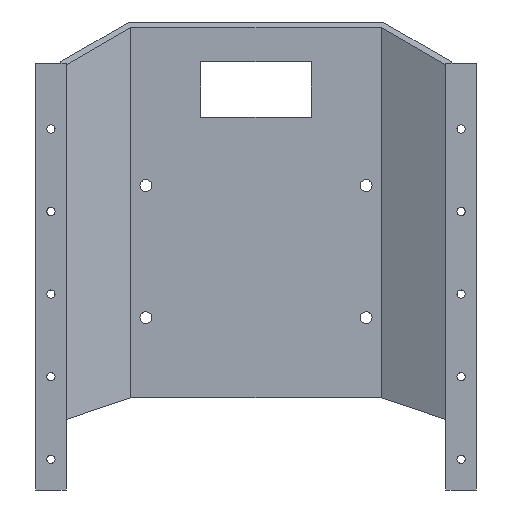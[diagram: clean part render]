
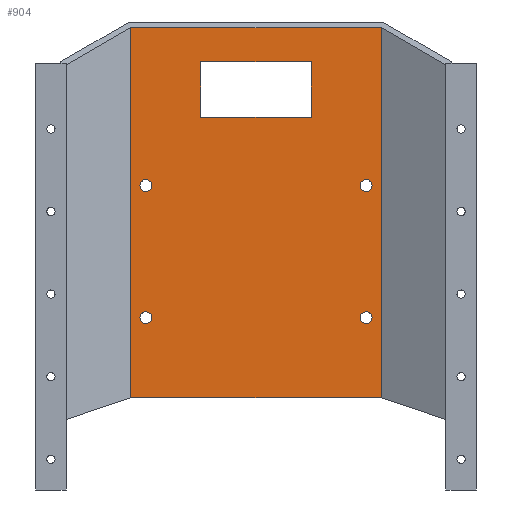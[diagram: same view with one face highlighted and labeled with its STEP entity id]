
A CAD part, front view. The second image highlights one B-rep face of the part: STEP entity #904.
In plain terms, the highlighted planar face has unit normal (0, -1, 0).
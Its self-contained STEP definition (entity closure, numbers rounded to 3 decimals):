
#9 = FACE_BOUND ( 'NONE', #3362, .T. ) ;
#34 = VERTEX_POINT ( 'NONE', #1925 ) ;
#72 = CARTESIAN_POINT ( 'NONE',  ( -40., 28., -107.404 ) ) ;
#99 = ORIENTED_EDGE ( 'NONE', *, *, #438, .F. ) ;
#117 = CARTESIAN_POINT ( 'NONE',  ( 40., 28., -107.404 ) ) ;
#133 = VERTEX_POINT ( 'NONE', #3580 ) ;
#183 = CIRCLE ( 'NONE', #250, 2.15 ) ;
#202 = CARTESIAN_POINT ( 'NONE',  ( -45.464, 28., -2. ) ) ;
#242 = CARTESIAN_POINT ( 'NONE',  ( 40., 28., -59.404 ) ) ;
#244 = AXIS2_PLACEMENT_3D ( 'NONE', #117, #2383, #962 ) ;
#250 = AXIS2_PLACEMENT_3D ( 'NONE', #1322, #986, #1864 ) ;
#298 = ORIENTED_EDGE ( 'NONE', *, *, #3421, .F. ) ;
#378 = VECTOR ( 'NONE', #2843, 1000. ) ;
#394 = DIRECTION ( 'NONE',  ( 0., -1., 0. ) ) ;
#405 = LINE ( 'NONE', #2607, #2516 ) ;
#438 = EDGE_CURVE ( 'NONE', #2826, #3517, #989, .T. ) ;
#443 = ORIENTED_EDGE ( 'NONE', *, *, #1888, .F. ) ;
#500 = ORIENTED_EDGE ( 'NONE', *, *, #702, .T. ) ;
#565 = ORIENTED_EDGE ( 'NONE', *, *, #1602, .F. ) ;
#592 = ORIENTED_EDGE ( 'NONE', *, *, #909, .F. ) ;
#603 = VECTOR ( 'NONE', #845, 1000. ) ;
#613 = EDGE_CURVE ( 'NONE', #3364, #34, #1806, .T. ) ;
#655 = VERTEX_POINT ( 'NONE', #3534 ) ;
#662 = CARTESIAN_POINT ( 'NONE',  ( 45.464, 28., -170. ) ) ;
#702 = EDGE_CURVE ( 'NONE', #3181, #771, #939, .T. ) ;
#716 = LINE ( 'NONE', #2189, #3039 ) ;
#726 = DIRECTION ( 'NONE',  ( 0., 0., -1. ) ) ;
#738 = CARTESIAN_POINT ( 'NONE',  ( -40., 28., -107.404 ) ) ;
#754 = DIRECTION ( 'NONE',  ( 0., 0., 1. ) ) ;
#771 = VERTEX_POINT ( 'NONE', #2990 ) ;
#789 = CARTESIAN_POINT ( 'NONE',  ( -20., 28., -34.52 ) ) ;
#831 = CARTESIAN_POINT ( 'NONE',  ( -20., 28., -170. ) ) ;
#845 = DIRECTION ( 'NONE',  ( -1., 0., 0. ) ) ;
#874 = ORIENTED_EDGE ( 'NONE', *, *, #1241, .F. ) ;
#877 = VECTOR ( 'NONE', #2102, 1000. ) ;
#893 = ORIENTED_EDGE ( 'NONE', *, *, #2116, .F. ) ;
#904 = ADVANCED_FACE ( 'NONE', ( #9, #1155, #1170, #1994, #2296, #3153 ), #2027, .T. ) ;
#909 = EDGE_CURVE ( 'NONE', #133, #1172, #3645, .T. ) ;
#939 = LINE ( 'NONE', #662, #2005 ) ;
#958 = CARTESIAN_POINT ( 'NONE',  ( 20., 28., -170. ) ) ;
#962 = DIRECTION ( 'NONE',  ( 0., 0., -1. ) ) ;
#986 = DIRECTION ( 'NONE',  ( 0., -1., 0. ) ) ;
#989 = CIRCLE ( 'NONE', #1468, 2.15 ) ;
#1050 = DIRECTION ( 'NONE',  ( 0., 0., -1. ) ) ;
#1055 = CARTESIAN_POINT ( 'NONE',  ( -40., 28., -59.404 ) ) ;
#1066 = ORIENTED_EDGE ( 'NONE', *, *, #2791, .F. ) ;
#1088 = CARTESIAN_POINT ( 'NONE',  ( -45.464, 28., -14.52 ) ) ;
#1089 = CARTESIAN_POINT ( 'NONE',  ( 37.85, 28., -59.404 ) ) ;
#1094 = DIRECTION ( 'NONE',  ( 0., -1., 0. ) ) ;
#1109 = LINE ( 'NONE', #2568, #603 ) ;
#1112 = DIRECTION ( 'NONE',  ( 0., -1., 0. ) ) ;
#1119 = EDGE_CURVE ( 'NONE', #1261, #1144, #716, .T. ) ;
#1132 = CARTESIAN_POINT ( 'NONE',  ( -45.464, 28., -170. ) ) ;
#1144 = VERTEX_POINT ( 'NONE', #202 ) ;
#1155 = FACE_BOUND ( 'NONE', #2954, .T. ) ;
#1170 = FACE_BOUND ( 'NONE', #2903, .T. ) ;
#1172 = VERTEX_POINT ( 'NONE', #789 ) ;
#1227 = VERTEX_POINT ( 'NONE', #1089 ) ;
#1241 = EDGE_CURVE ( 'NONE', #3181, #1261, #1109, .T. ) ;
#1255 = AXIS2_PLACEMENT_3D ( 'NONE', #1132, #1112, #2275 ) ;
#1261 = VERTEX_POINT ( 'NONE', #1391 ) ;
#1322 = CARTESIAN_POINT ( 'NONE',  ( 40., 28., -59.404 ) ) ;
#1328 = DIRECTION ( 'NONE',  ( 0., -1., 0. ) ) ;
#1383 = CARTESIAN_POINT ( 'NONE',  ( 40., 28., -107.404 ) ) ;
#1391 = CARTESIAN_POINT ( 'NONE',  ( -45.464, 28., -136.514 ) ) ;
#1444 = CARTESIAN_POINT ( 'NONE',  ( -37.85, 28., -59.404 ) ) ;
#1456 = DIRECTION ( 'NONE',  ( 0., -1., 0. ) ) ;
#1468 = AXIS2_PLACEMENT_3D ( 'NONE', #1055, #2195, #3285 ) ;
#1517 = VERTEX_POINT ( 'NONE', #1552 ) ;
#1552 = CARTESIAN_POINT ( 'NONE',  ( 37.85, 28., -107.404 ) ) ;
#1567 = AXIS2_PLACEMENT_3D ( 'NONE', #242, #1094, #2233 ) ;
#1602 = EDGE_CURVE ( 'NONE', #1172, #3364, #1868, .T. ) ;
#1605 = CARTESIAN_POINT ( 'NONE',  ( -45.464, 28., -34.52 ) ) ;
#1625 = CIRCLE ( 'NONE', #2401, 2.15 ) ;
#1806 = LINE ( 'NONE', #958, #877 ) ;
#1809 = AXIS2_PLACEMENT_3D ( 'NONE', #2306, #394, #726 ) ;
#1827 = ORIENTED_EDGE ( 'NONE', *, *, #1119, .F. ) ;
#1864 = DIRECTION ( 'NONE',  ( 0., 0., -1. ) ) ;
#1868 = LINE ( 'NONE', #1605, #2760 ) ;
#1888 = EDGE_CURVE ( 'NONE', #2905, #2647, #2739, .T. ) ;
#1925 = CARTESIAN_POINT ( 'NONE',  ( 20., 28., -14.52 ) ) ;
#1968 = EDGE_CURVE ( 'NONE', #1227, #655, #183, .T. ) ;
#1994 = FACE_BOUND ( 'NONE', #2799, .T. ) ;
#2005 = VECTOR ( 'NONE', #2937, 1000. ) ;
#2006 = LINE ( 'NONE', #1088, #378 ) ;
#2027 = PLANE ( 'NONE',  #1255 ) ;
#2068 = CARTESIAN_POINT ( 'NONE',  ( -42.15, 28., -107.404 ) ) ;
#2102 = DIRECTION ( 'NONE',  ( 0., 0., 1. ) ) ;
#2116 = EDGE_CURVE ( 'NONE', #1517, #3672, #2621, .T. ) ;
#2189 = CARTESIAN_POINT ( 'NONE',  ( -45.464, 28., -170. ) ) ;
#2195 = DIRECTION ( 'NONE',  ( 0., -1., 0. ) ) ;
#2223 = DIRECTION ( 'NONE',  ( 0., 0., -1. ) ) ;
#2233 = DIRECTION ( 'NONE',  ( 0., 0., -1. ) ) ;
#2234 = DIRECTION ( 'NONE',  ( 0., 0., -1. ) ) ;
#2258 = ORIENTED_EDGE ( 'NONE', *, *, #613, .F. ) ;
#2275 = DIRECTION ( 'NONE',  ( 0., 0., -1. ) ) ;
#2296 = FACE_BOUND ( 'NONE', #3435, .T. ) ;
#2303 = ORIENTED_EDGE ( 'NONE', *, *, #3649, .F. ) ;
#2306 = CARTESIAN_POINT ( 'NONE',  ( -40., 28., -59.404 ) ) ;
#2346 = DIRECTION ( 'NONE',  ( 1., 0., 0. ) ) ;
#2365 = ORIENTED_EDGE ( 'NONE', *, *, #1968, .F. ) ;
#2380 = AXIS2_PLACEMENT_3D ( 'NONE', #72, #1456, #2943 ) ;
#2383 = DIRECTION ( 'NONE',  ( 0., -1., 0. ) ) ;
#2401 = AXIS2_PLACEMENT_3D ( 'NONE', #738, #2697, #1050 ) ;
#2413 = ORIENTED_EDGE ( 'NONE', *, *, #3555, .F. ) ;
#2511 = EDGE_CURVE ( 'NONE', #3672, #1517, #3398, .T. ) ;
#2516 = VECTOR ( 'NONE', #2346, 1000. ) ;
#2529 = CARTESIAN_POINT ( 'NONE',  ( 45.464, 28., -136.514 ) ) ;
#2568 = CARTESIAN_POINT ( 'NONE',  ( -45.464, 28., -136.514 ) ) ;
#2607 = CARTESIAN_POINT ( 'NONE',  ( -45.464, 28., -2. ) ) ;
#2621 = CIRCLE ( 'NONE', #244, 2.15 ) ;
#2647 = VERTEX_POINT ( 'NONE', #2068 ) ;
#2697 = DIRECTION ( 'NONE',  ( 0., -1., 0. ) ) ;
#2718 = CARTESIAN_POINT ( 'NONE',  ( -37.85, 28., -107.404 ) ) ;
#2739 = CIRCLE ( 'NONE', #2380, 2.15 ) ;
#2760 = VECTOR ( 'NONE', #2961, 1000. ) ;
#2763 = CIRCLE ( 'NONE', #1809, 2.15 ) ;
#2791 = EDGE_CURVE ( 'NONE', #1144, #771, #405, .T. ) ;
#2799 = EDGE_LOOP ( 'NONE', ( #893, #3337 ) ) ;
#2826 = VERTEX_POINT ( 'NONE', #2952 ) ;
#2843 = DIRECTION ( 'NONE',  ( -1., 0., 0. ) ) ;
#2903 = EDGE_LOOP ( 'NONE', ( #2365, #2940 ) ) ;
#2905 = VERTEX_POINT ( 'NONE', #2718 ) ;
#2937 = DIRECTION ( 'NONE',  ( 0., 0., 1. ) ) ;
#2940 = ORIENTED_EDGE ( 'NONE', *, *, #3205, .F. ) ;
#2943 = DIRECTION ( 'NONE',  ( 0., 0., -1. ) ) ;
#2952 = CARTESIAN_POINT ( 'NONE',  ( -42.15, 28., -59.404 ) ) ;
#2954 = EDGE_LOOP ( 'NONE', ( #99, #2303 ) ) ;
#2961 = DIRECTION ( 'NONE',  ( 1., 0., 0. ) ) ;
#2990 = CARTESIAN_POINT ( 'NONE',  ( 45.464, 28., -2. ) ) ;
#3039 = VECTOR ( 'NONE', #754, 1000. ) ;
#3086 = VECTOR ( 'NONE', #2234, 1000. ) ;
#3099 = AXIS2_PLACEMENT_3D ( 'NONE', #1383, #1328, #2223 ) ;
#3104 = EDGE_LOOP ( 'NONE', ( #874, #500, #1066, #1827 ) ) ;
#3153 = FACE_OUTER_BOUND ( 'NONE', #3104, .T. ) ;
#3181 = VERTEX_POINT ( 'NONE', #2529 ) ;
#3205 = EDGE_CURVE ( 'NONE', #655, #1227, #3646, .T. ) ;
#3248 = CARTESIAN_POINT ( 'NONE',  ( 42.15, 28., -107.404 ) ) ;
#3285 = DIRECTION ( 'NONE',  ( 0., 0., -1. ) ) ;
#3337 = ORIENTED_EDGE ( 'NONE', *, *, #2511, .F. ) ;
#3362 = EDGE_LOOP ( 'NONE', ( #2258, #565, #592, #2413 ) ) ;
#3364 = VERTEX_POINT ( 'NONE', #3566 ) ;
#3398 = CIRCLE ( 'NONE', #3099, 2.15 ) ;
#3421 = EDGE_CURVE ( 'NONE', #2647, #2905, #1625, .T. ) ;
#3435 = EDGE_LOOP ( 'NONE', ( #298, #443 ) ) ;
#3517 = VERTEX_POINT ( 'NONE', #1444 ) ;
#3534 = CARTESIAN_POINT ( 'NONE',  ( 42.15, 28., -59.404 ) ) ;
#3555 = EDGE_CURVE ( 'NONE', #34, #133, #2006, .T. ) ;
#3566 = CARTESIAN_POINT ( 'NONE',  ( 20., 28., -34.52 ) ) ;
#3580 = CARTESIAN_POINT ( 'NONE',  ( -20., 28., -14.52 ) ) ;
#3645 = LINE ( 'NONE', #831, #3086 ) ;
#3646 = CIRCLE ( 'NONE', #1567, 2.15 ) ;
#3649 = EDGE_CURVE ( 'NONE', #3517, #2826, #2763, .T. ) ;
#3672 = VERTEX_POINT ( 'NONE', #3248 ) ;
